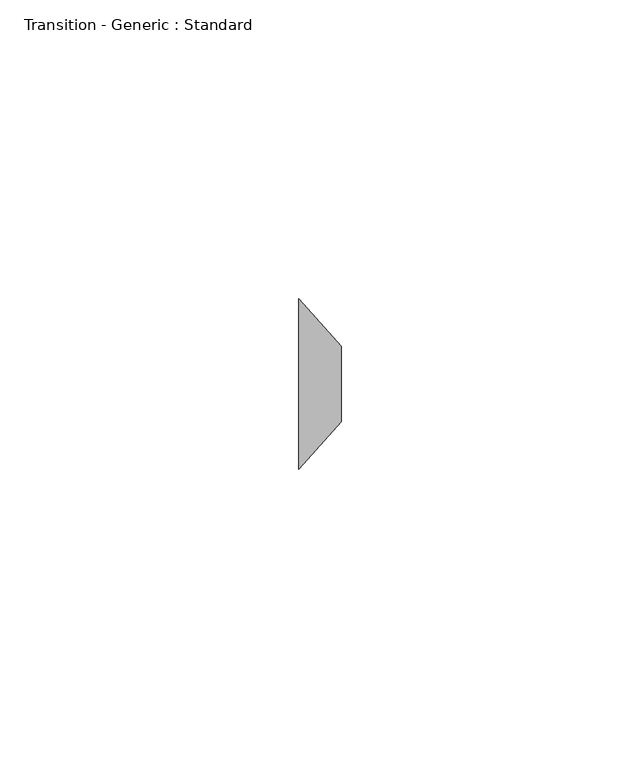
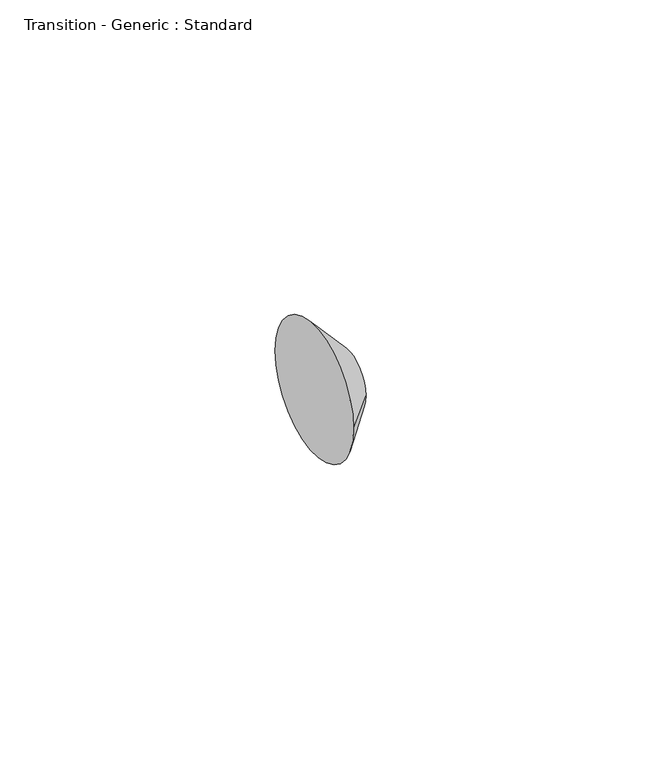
"""IFC4 building model written with IfcOpenShell, lengths in millimetres: pipe fitting geometry, Transition - Generic : Standard."""

from ifc_helpers import new_model, si_unit, frame, origin, place, context, project, spatial, polyline, circle_curve, source, transform, mapped, element, save
from ifc_brep_helpers import plane_surface, revolved_surface, advanced_brep


def transition_generic_standard_18b712a4(model_context):
    return source(origin(), model_context, "Body", "AdvancedBrep", [
        advanced_brep(
        [(7.14375, -6.35, 0.0), (7.14375, 6.35, 0.0), (0.0, -14.2875, 0.0), (0.0, 14.2875, 0.0)],
        [
            (0, 1, circle_curve(frame((7.14375, 0.0, 0.0), z_axis=(1.0, 0.0, 0.0), x_axis=(0.0, -1.0, 0.0)), 6.35)),
            (1, 0, circle_curve(frame((7.14375, 0.0, 0.0), z_axis=(1.0, 0.0, 0.0), x_axis=(0.0, 1.0, 0.0)), 6.35)),
            (2, 3, circle_curve(frame((0.0, 0.0, 0.0), z_axis=(-1.0, 0.0, 0.0), x_axis=(0.0, 1.0, 0.0)), 14.2875)),
            (3, 2, circle_curve(frame((0.0, 0.0, 0.0), z_axis=(-1.0, 0.0, 0.0), x_axis=(0.0, -1.0, 0.0)), 14.2875)),
            (3, 1),
            (0, 2),
        ],
        [
            plane_surface(frame((7.14375, 0.0, 0.0), z_axis=(1.0, 0.0, 0.0), x_axis=(0.0, 0.0, -1.0))),
            plane_surface(frame((0.0, 0.0, 0.0), z_axis=(-1.0, 0.0, 0.0), x_axis=(0.0, 0.0, -1.0))),
            revolved_surface(polyline([(7.14375, -6.3500000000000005, 0.0), (0.0, -14.2875, 0.0)]), (12.85875, 0.0, 0.0), (-1.0, 0.0, 0.0)),
            revolved_surface(polyline([(7.14375, 6.3500000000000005, 0.0), (0.0, 14.2875, 0.0)]), (12.85875, 0.0, 0.0), (-1.0, 0.0, 0.0)),
        ],
        [
            (0, [[1, 2]]),
            (1, [[3, 4]]),
            (2, [[-4, 5, -1, 6]]),
            (3, [[-3, -6, -2, -5]]),
        ],
    ),
    ])


if __name__ == "__main__":
    model = new_model("IFC4")
    model_context = context("Model", 3, world=origin())
    ifc_project = project(units=[si_unit("LENGTHUNIT", "METRE", prefix="MILLI")], contexts=[model_context])
    site = spatial("IfcSite", under=ifc_project)
    building = spatial("IfcBuilding", under=site)
    placement = place(None, origin())
    transition_generic_standard_shape = transition_generic_standard_18b712a4(model_context)
    element("IfcPipeFitting", 1, ObjectType="Transition - Generic : Standard", at=placement, inside=building, context=model_context, shape_type="MappedRepresentation", body=[
        mapped(transition_generic_standard_shape, transform((0.0, 0.0, 0.0), x_axis=(1.0, 0.0, 0.0), y_axis=(0.0, 1.0, 0.0), z_axis=(0.0, 0.0, 1.0))),
    ])
    save(model, "model.ifc")
